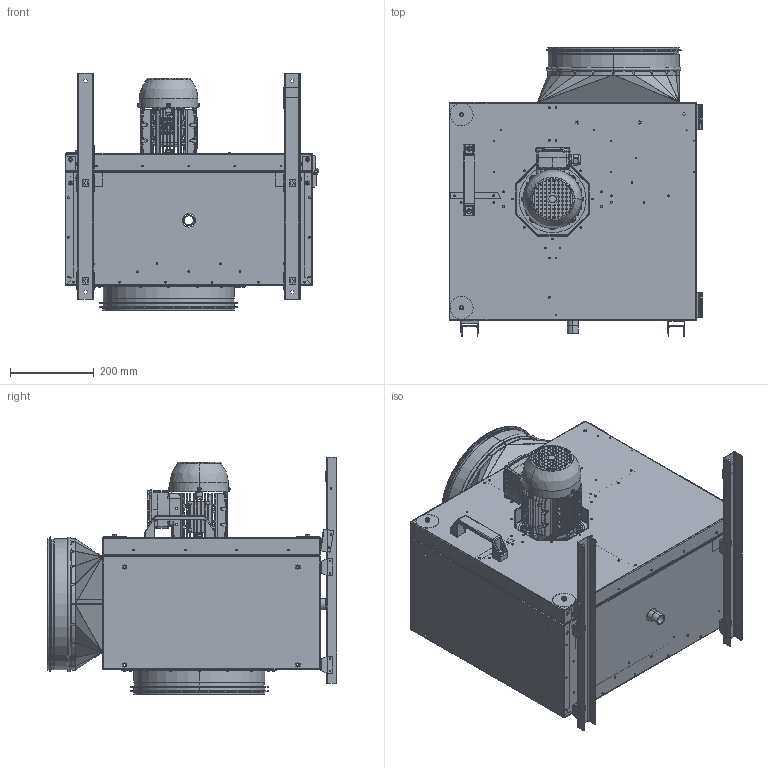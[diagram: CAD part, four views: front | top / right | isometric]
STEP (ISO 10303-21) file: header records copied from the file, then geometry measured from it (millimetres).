
FILE_DESCRIPTION (( 'STEP AP203' ), '1' );
FILE_NAME ('145832-00_MPS280D2F430_step.step', '2018-10-09T11:18:52', ( '' ), ( '' ), 'SwSTEP 2.0', 'SolidWorks 2017', '' );
FILE_SCHEMA (( 'CONFIG_CONTROL_DESIGN' ));
Products named in the file (1): 145832-00_MPS280D2F430_step
Bounding box: 607.03 x 691.64 x 567 mm (x, y, z)
Surface area: 5702100.5 mm2 (no closed solid volume)
Topology: 0 solids, 235 shells, 2620 faces, 11731 edges, 8963 vertices
Faces by surface type: plane 1416, cylinder 862, bspline 132, torus 110, cone 100
Entity records: 139548 total; most frequent: CARTESIAN_POINT 47391, DIRECTION 18431, ORIENTED_EDGE 16285, EDGE_CURVE 11731, VERTEX_POINT 8963, VECTOR 7001, LINE 7001, AXIS2_PLACEMENT_3D 5715
